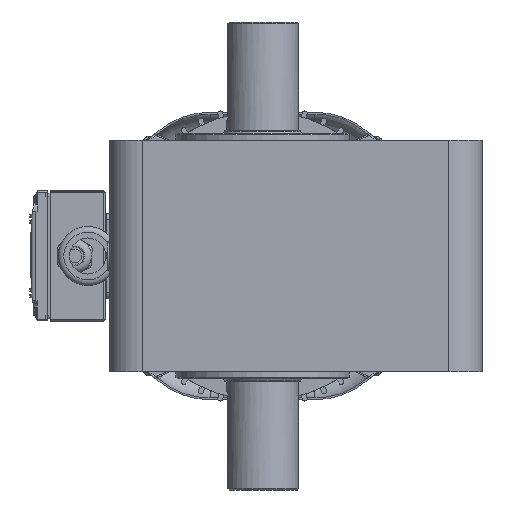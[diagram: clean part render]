
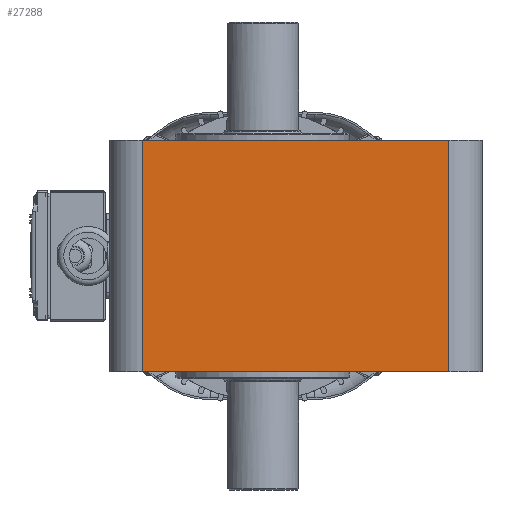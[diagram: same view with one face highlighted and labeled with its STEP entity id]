
A CAD part, left-side view. The second image highlights one B-rep face of the part: STEP entity #27288.
In plain terms, the highlighted planar face has unit normal (-1, 0, 0).
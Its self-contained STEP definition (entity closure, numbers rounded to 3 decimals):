
#832=PLANE('',#30011);
#2021=FACE_OUTER_BOUND('',#3628,.T.);
#3628=EDGE_LOOP('',(#22066,#22067,#22068,#22069));
#7260=LINE('',#46288,#9401);
#7287=LINE('',#46402,#9428);
#7288=LINE('',#46406,#9429);
#7289=LINE('',#46407,#9430);
#9401=VECTOR('',#36577,212.);
#9428=VECTOR('',#36696,160.);
#9429=VECTOR('',#36701,160.);
#9430=VECTOR('',#36702,212.);
#12187=VERTEX_POINT('',#46285);
#12188=VERTEX_POINT('',#46287);
#12229=VERTEX_POINT('',#46401);
#12230=VERTEX_POINT('',#46405);
#15622=EDGE_CURVE('',#12188,#12187,#7260,.T.);
#15677=EDGE_CURVE('',#12188,#12229,#7287,.T.);
#15679=EDGE_CURVE('',#12230,#12187,#7288,.T.);
#15680=EDGE_CURVE('',#12230,#12229,#7289,.T.);
#22066=ORIENTED_EDGE('',*,*,#15677,.F.);
#22067=ORIENTED_EDGE('',*,*,#15622,.T.);
#22068=ORIENTED_EDGE('',*,*,#15679,.F.);
#22069=ORIENTED_EDGE('',*,*,#15680,.T.);
#27288=ADVANCED_FACE('',(#2021),#832,.T.);
#30011=AXIS2_PLACEMENT_3D('',#46404,#36699,#36700);
#36577=DIRECTION('',(0.,1.,0.));
#36696=DIRECTION('',(0.,0.,-1.));
#36699=DIRECTION('center_axis',(-1.,0.,0.));
#36700=DIRECTION('ref_axis',(0.,0.,1.));
#36701=DIRECTION('',(0.,0.,1.));
#36702=DIRECTION('',(0.,-1.,0.));
#46285=CARTESIAN_POINT('',(-143.486,87.527,80.));
#46287=CARTESIAN_POINT('',(-143.486,-124.473,80.));
#46288=CARTESIAN_POINT('',(-143.486,-124.473,80.));
#46401=CARTESIAN_POINT('',(-143.486,-124.473,-80.));
#46402=CARTESIAN_POINT('',(-143.486,-124.473,80.));
#46404=CARTESIAN_POINT('Origin',(-143.486,-147.473,-80.));
#46405=CARTESIAN_POINT('',(-143.486,87.527,-80.));
#46406=CARTESIAN_POINT('',(-143.486,87.527,-80.));
#46407=CARTESIAN_POINT('',(-143.486,87.527,-80.));
